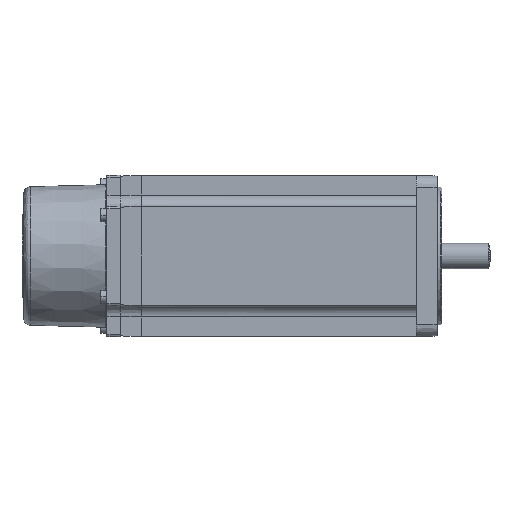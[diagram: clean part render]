
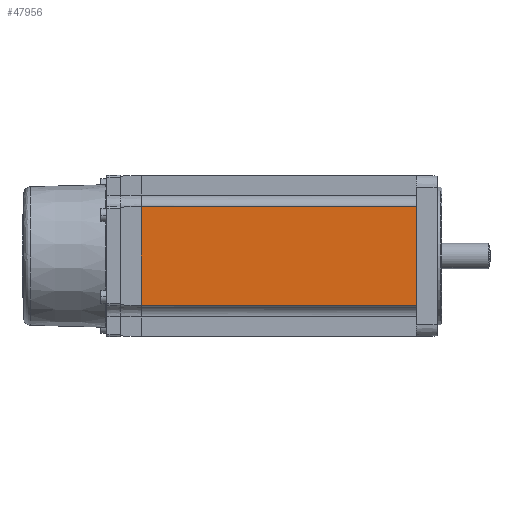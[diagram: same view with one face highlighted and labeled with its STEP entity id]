
A CAD part, front view. The second image highlights one B-rep face of the part: STEP entity #47956.
In plain terms, the highlighted planar face has unit normal (0, -1, 0) as drawn and (0, 1, 0) by its records, which use the part's own axes.
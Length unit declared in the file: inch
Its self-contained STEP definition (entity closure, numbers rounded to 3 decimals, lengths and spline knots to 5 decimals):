
#936 = CARTESIAN_POINT ( 'NONE',  ( -1.37795, 1.37795, -1.25984 ) ) ;
#2376 = CARTESIAN_POINT ( 'NONE',  ( 0.84711, 1.37795, -1.25984 ) ) ;
#3451 = AXIS2_PLACEMENT_3D ( 'NONE', #85449, #17138, #96915 ) ;
#4763 = CARTESIAN_POINT ( 'NONE',  ( -1.37795, 1.37795, 3.44882 ) ) ;
#8634 = ORIENTED_EDGE ( 'NONE', *, *, #133230, .T. ) ;
#16653 = PLANE ( 'NONE',  #3451 ) ;
#17138 = DIRECTION ( 'NONE',  ( 0., 1., 0. ) ) ;
#18229 = LINE ( 'NONE', #67398, #105734 ) ;
#23483 = VECTOR ( 'NONE', #98960, 39.37008 ) ;
#36572 = LINE ( 'NONE', #936, #63259 ) ;
#47956 = ADVANCED_FACE ( 'NONE', ( #135215 ), #16653, .T. ) ;
#52009 = VERTEX_POINT ( 'NONE', #76520 ) ;
#55362 = LINE ( 'NONE', #87461, #23483 ) ;
#63259 = VECTOR ( 'NONE', #92176, 39.37008 ) ;
#67398 = CARTESIAN_POINT ( 'NONE',  ( 0.84711, 1.37795, -1.25984 ) ) ;
#76520 = CARTESIAN_POINT ( 'NONE',  ( -0.84711, 1.37795, -1.25984 ) ) ;
#78881 = DIRECTION ( 'NONE',  ( 0., 0., 1. ) ) ;
#85216 = EDGE_CURVE ( 'NONE', #52009, #147739, #36572, .T. ) ;
#85449 = CARTESIAN_POINT ( 'NONE',  ( -1.37795, 1.37795, 3.44882 ) ) ;
#86050 = ORIENTED_EDGE ( 'NONE', *, *, #96741, .F. ) ;
#87461 = CARTESIAN_POINT ( 'NONE',  ( -0.84711, 1.37795, 4.6063 ) ) ;
#90747 = VECTOR ( 'NONE', #96012, 39.37008 ) ;
#91535 = EDGE_CURVE ( 'NONE', #147739, #140778, #18229, .T. ) ;
#92176 = DIRECTION ( 'NONE',  ( 1., 0., 0. ) ) ;
#96012 = DIRECTION ( 'NONE',  ( 1., 0., 0. ) ) ;
#96741 = EDGE_CURVE ( 'NONE', #99352, #52009, #55362, .T. ) ;
#96915 = DIRECTION ( 'NONE',  ( 0., 0., 1. ) ) ;
#98135 = ORIENTED_EDGE ( 'NONE', *, *, #85216, .F. ) ;
#98960 = DIRECTION ( 'NONE',  ( 0., 0., -1. ) ) ;
#99352 = VERTEX_POINT ( 'NONE', #121590 ) ;
#102779 = CARTESIAN_POINT ( 'NONE',  ( 0.84711, 1.37795, 3.44882 ) ) ;
#105734 = VECTOR ( 'NONE', #78881, 39.37008 ) ;
#108484 = ORIENTED_EDGE ( 'NONE', *, *, #91535, .F. ) ;
#111839 = EDGE_LOOP ( 'NONE', ( #108484, #98135, #86050, #8634 ) ) ;
#121095 = LINE ( 'NONE', #4763, #90747 ) ;
#121590 = CARTESIAN_POINT ( 'NONE',  ( -0.84711, 1.37795, 3.44882 ) ) ;
#133230 = EDGE_CURVE ( 'NONE', #99352, #140778, #121095, .T. ) ;
#135215 = FACE_OUTER_BOUND ( 'NONE', #111839, .T. ) ;
#140778 = VERTEX_POINT ( 'NONE', #102779 ) ;
#147739 = VERTEX_POINT ( 'NONE', #2376 ) ;
